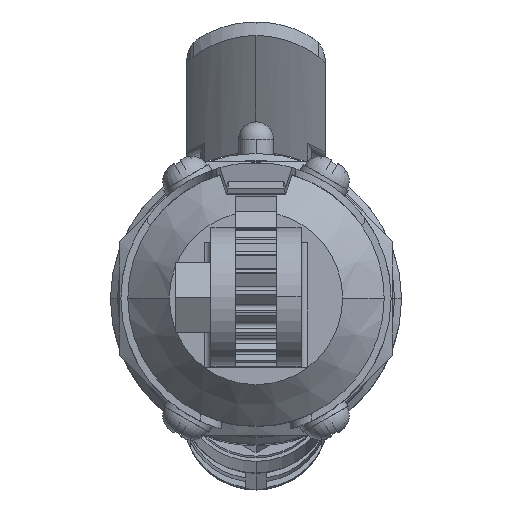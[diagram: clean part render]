
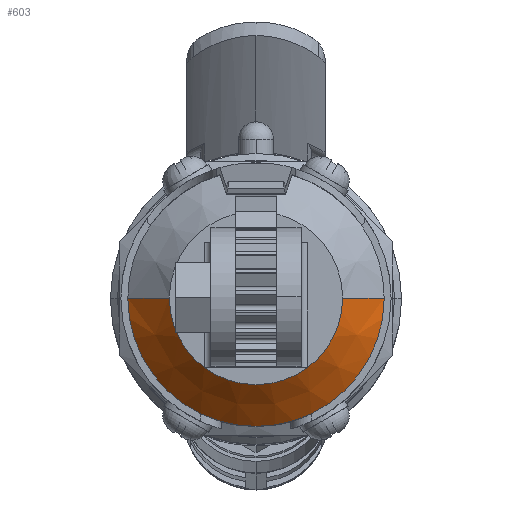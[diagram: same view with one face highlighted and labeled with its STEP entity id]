
A CAD part, top view. The second image highlights one B-rep face of the part: STEP entity #603.
In plain terms, the highlighted conical face has half-angle 45 degrees and reference radius 18.5 mm.
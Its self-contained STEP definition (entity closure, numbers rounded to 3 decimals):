
#311 = EDGE_CURVE ( 'NONE', #7866, #312, #8770, .T. ) ;
#312 = VERTEX_POINT ( 'NONE', #8832 ) ;
#352 = VERTEX_POINT ( 'NONE', #8897 ) ;
#356 = EDGE_CURVE ( 'NONE', #352, #7810, #8895, .T. ) ;
#393 = EDGE_CURVE ( 'NONE', #312, #352, #8909, .T. ) ;
#524 = ORIENTED_EDGE ( 'NONE', *, *, #7816, .F. ) ;
#526 = ORIENTED_EDGE ( 'NONE', *, *, #356, .F. ) ;
#528 = ORIENTED_EDGE ( 'NONE', *, *, #393, .F. ) ;
#531 = ORIENTED_EDGE ( 'NONE', *, *, #311, .F. ) ;
#566 = ORIENTED_EDGE ( 'NONE', *, *, #7865, .T. ) ;
#569 = ORIENTED_EDGE ( 'NONE', *, *, #15278, .F. ) ;
#572 = ORIENTED_EDGE ( 'NONE', *, *, #573, .T. ) ;
#573 = EDGE_CURVE ( 'NONE', #13293, #13275, #9277, .T. ) ;
#575 = ORIENTED_EDGE ( 'NONE', *, *, #13272, .F. ) ;
#603 = ADVANCED_FACE ( 'NONE', ( #9287 ), #9286, .T. ) ;
#604 = EDGE_LOOP ( 'NONE', ( #524, #526, #528, #531, #566, #569, #572, #575 ) ) ;
#7810 = VERTEX_POINT ( 'NONE', #25062 ) ;
#7816 = EDGE_CURVE ( 'NONE', #7810, #7818, #25054, .T. ) ;
#7818 = VERTEX_POINT ( 'NONE', #25050 ) ;
#7861 = VERTEX_POINT ( 'NONE', #25242 ) ;
#7865 = EDGE_CURVE ( 'NONE', #7866, #7861, #25237, .T. ) ;
#7866 = VERTEX_POINT ( 'NONE', #25233 ) ;
#8770 = CIRCLE ( 'NONE', #8836, 12.5 ) ;
#8832 = CARTESIAN_POINT ( 'NONE',  ( -7.5, -10., -78. ) ) ;
#8833 = DIRECTION ( 'NONE',  ( 1., 0., 0. ) ) ;
#8834 = DIRECTION ( 'NONE',  ( 0., 0., 1. ) ) ;
#8835 = CARTESIAN_POINT ( 'NONE',  ( 0., 0., -78. ) ) ;
#8836 = AXIS2_PLACEMENT_3D ( 'NONE', #8835, #8834, #8833 ) ;
#8891 = DIRECTION ( 'NONE',  ( 1., 0., 0. ) ) ;
#8892 = DIRECTION ( 'NONE',  ( 0., 0., 1. ) ) ;
#8893 = CARTESIAN_POINT ( 'NONE',  ( 0., 0., -78. ) ) ;
#8894 = AXIS2_PLACEMENT_3D ( 'NONE', #8893, #8892, #8891 ) ;
#8895 = CIRCLE ( 'NONE', #8894, 12.5 ) ;
#8897 = CARTESIAN_POINT ( 'NONE',  ( 7.5, -10., -78. ) ) ;
#8905 = DIRECTION ( 'NONE',  ( 1., 0., 0. ) ) ;
#8906 = DIRECTION ( 'NONE',  ( 0., 0., 1. ) ) ;
#8907 = CARTESIAN_POINT ( 'NONE',  ( 0., 0., -78. ) ) ;
#8908 = AXIS2_PLACEMENT_3D ( 'NONE', #8907, #8906, #8905 ) ;
#8909 = CIRCLE ( 'NONE', #8908, 12.5 ) ;
#9273 = DIRECTION ( 'NONE',  ( 1., 0., 0. ) ) ;
#9274 = DIRECTION ( 'NONE',  ( 0., 0., 1. ) ) ;
#9275 = CARTESIAN_POINT ( 'NONE',  ( 0., 0., -84. ) ) ;
#9276 = AXIS2_PLACEMENT_3D ( 'NONE', #9275, #9274, #9273 ) ;
#9277 = CIRCLE ( 'NONE', #9276, 18.5 ) ;
#9286 = CONICAL_SURFACE ( 'NONE', #9339, 18.5, 0.785 ) ;
#9287 = FACE_OUTER_BOUND ( 'NONE', #604, .T. ) ;
#9336 = DIRECTION ( 'NONE',  ( -1., 0., 0. ) ) ;
#9337 = DIRECTION ( 'NONE',  ( 0., 0., -1. ) ) ;
#9338 = CARTESIAN_POINT ( 'NONE',  ( 0., 0., -84. ) ) ;
#9339 = AXIS2_PLACEMENT_3D ( 'NONE', #9338, #9337, #9336 ) ;
#13272 = EDGE_CURVE ( 'NONE', #7818, #13275, #25992, .T. ) ;
#13275 = VERTEX_POINT ( 'NONE', #25984 ) ;
#13293 = VERTEX_POINT ( 'NONE', #26025 ) ;
#15278 = EDGE_CURVE ( 'NONE', #13293, #7861, #26103, .T. ) ;
#25050 = CARTESIAN_POINT ( 'NONE',  ( 18.5, 0., -84. ) ) ;
#25051 = DIRECTION ( 'NONE',  ( 0.707, 0., -0.707 ) ) ;
#25052 = VECTOR ( 'NONE', #25051, 1000. ) ;
#25053 = CARTESIAN_POINT ( 'NONE',  ( 18.5, 0., -84. ) ) ;
#25054 = LINE ( 'NONE', #25053, #25052 ) ;
#25062 = CARTESIAN_POINT ( 'NONE',  ( 12.5, 0., -78. ) ) ;
#25233 = CARTESIAN_POINT ( 'NONE',  ( -12.5, 0., -78. ) ) ;
#25234 = DIRECTION ( 'NONE',  ( -0.707, 0., -0.707 ) ) ;
#25235 = VECTOR ( 'NONE', #25234, 1000. ) ;
#25236 = CARTESIAN_POINT ( 'NONE',  ( -18.5, 0., -84. ) ) ;
#25237 = LINE ( 'NONE', #25236, #25235 ) ;
#25242 = CARTESIAN_POINT ( 'NONE',  ( -18.5, 0., -84. ) ) ;
#25984 = CARTESIAN_POINT ( 'NONE',  ( 8., -16.681, -84. ) ) ;
#25989 = DIRECTION ( 'NONE',  ( 1., 0., 0. ) ) ;
#25990 = DIRECTION ( 'NONE',  ( 0., 0., -1. ) ) ;
#25991 = AXIS2_PLACEMENT_3D ( 'NONE', #25996, #25990, #25989 ) ;
#25992 = CIRCLE ( 'NONE', #25991, 18.5 ) ;
#25996 = CARTESIAN_POINT ( 'NONE',  ( 0., 0., -84. ) ) ;
#26025 = CARTESIAN_POINT ( 'NONE',  ( -8., -16.681, -84. ) ) ;
#26099 = DIRECTION ( 'NONE',  ( 1., 0., 0. ) ) ;
#26100 = DIRECTION ( 'NONE',  ( 0., 0., -1. ) ) ;
#26101 = CARTESIAN_POINT ( 'NONE',  ( 0., 0., -84. ) ) ;
#26102 = AXIS2_PLACEMENT_3D ( 'NONE', #26101, #26100, #26099 ) ;
#26103 = CIRCLE ( 'NONE', #26102, 18.5 ) ;
